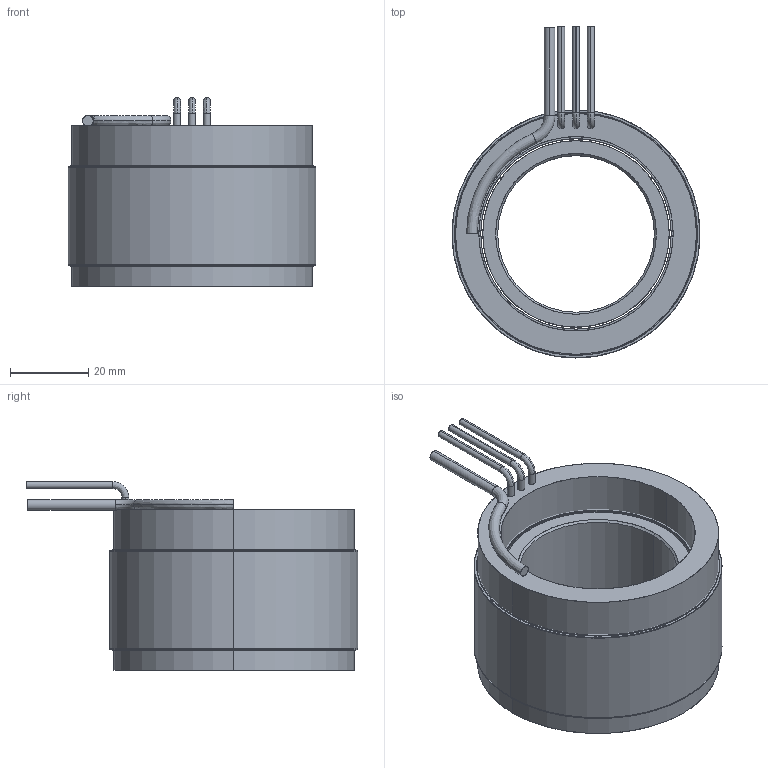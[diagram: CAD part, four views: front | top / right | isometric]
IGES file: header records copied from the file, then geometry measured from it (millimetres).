
Start section: SolidWorks IGES file using analytic representation for surfaces
Global section: file name: \\fs01.aveox.local\user documents\eng\My Documents\6100391-XX UAV STANDARD STATOR AND ROTOR SET 2.5OD 27S24P\6100391-03.IGS; native system: SolidWorks 2016; preprocessor: SolidWorks 2016; author: eng; date: 201214.184005; units: inch
Bounding box: 63.5 x 84.96 x 48.39 mm (x, y, z)
Surface area: 47161.1 mm2 (no closed solid volume)
Topology: 0 solids, 0 shells, 75 faces, 2288 edges, 2288 vertices
Faces by surface type: revolution 46, bspline 29
